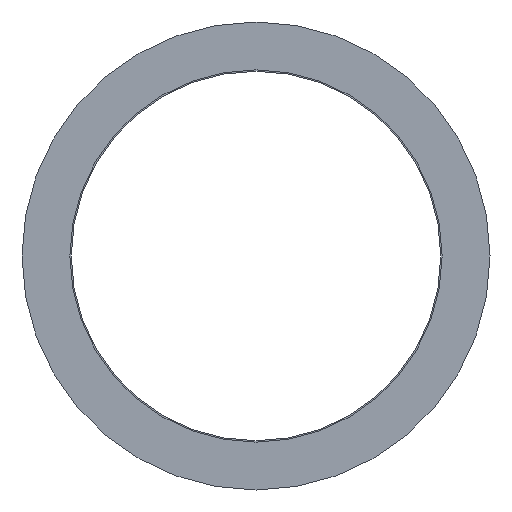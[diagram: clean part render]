
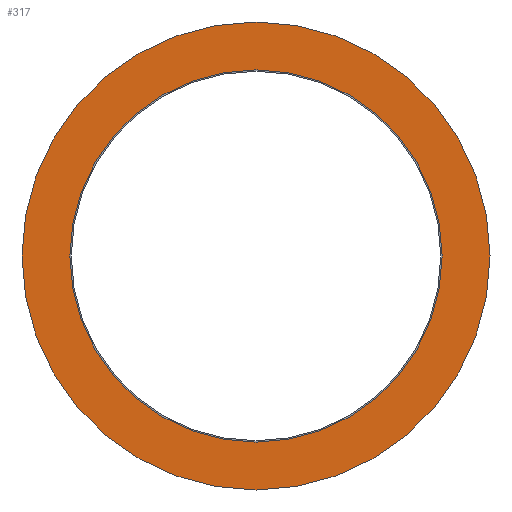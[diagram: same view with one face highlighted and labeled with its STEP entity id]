
A CAD part, left-side view. The second image highlights one B-rep face of the part: STEP entity #317.
In plain terms, the highlighted planar face has unit normal (-1, 0, 0).
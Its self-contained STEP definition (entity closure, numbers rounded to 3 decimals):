
#8 = CIRCLE ( 'NONE', #253, 9.5 ) ;
#10 = AXIS2_PLACEMENT_3D ( 'NONE', #292, #97, #210 ) ;
#28 = CIRCLE ( 'NONE', #10, 9.5 ) ;
#31 = CARTESIAN_POINT ( 'NONE',  ( -3.562, -0.028, -7.555 ) ) ;
#37 = DIRECTION ( 'NONE',  ( 1., 0., 0. ) ) ;
#49 = DIRECTION ( 'NONE',  ( -1., 0., 0. ) ) ;
#60 = ORIENTED_EDGE ( 'NONE', *, *, #147, .T. ) ;
#65 = CARTESIAN_POINT ( 'NONE',  ( -3.562, -0.028, 0. ) ) ;
#67 = FACE_BOUND ( 'NONE', #163, .T. ) ;
#78 = FACE_OUTER_BOUND ( 'NONE', #394, .T. ) ;
#88 = CARTESIAN_POINT ( 'NONE',  ( -3.562, -0.028, 0. ) ) ;
#96 = VERTEX_POINT ( 'NONE', #207 ) ;
#97 = DIRECTION ( 'NONE',  ( 1., 0., 0. ) ) ;
#101 = VERTEX_POINT ( 'NONE', #111 ) ;
#111 = CARTESIAN_POINT ( 'NONE',  ( -3.562, -0.028, 7.555 ) ) ;
#119 = CARTESIAN_POINT ( 'NONE',  ( -3.562, -0.028, 0. ) ) ;
#122 = PLANE ( 'NONE',  #235 ) ;
#125 = CARTESIAN_POINT ( 'NONE',  ( -3.562, -0.028, 9.5 ) ) ;
#126 = EDGE_CURVE ( 'NONE', #329, #101, #400, .T. ) ;
#136 = CARTESIAN_POINT ( 'NONE',  ( -3.562, -0.028, 0. ) ) ;
#147 = EDGE_CURVE ( 'NONE', #101, #329, #167, .T. ) ;
#163 = EDGE_LOOP ( 'NONE', ( #202, #60 ) ) ;
#167 = CIRCLE ( 'NONE', #378, 7.555 ) ;
#182 = ORIENTED_EDGE ( 'NONE', *, *, #334, .F. ) ;
#200 = VERTEX_POINT ( 'NONE', #125 ) ;
#202 = ORIENTED_EDGE ( 'NONE', *, *, #126, .T. ) ;
#203 = DIRECTION ( 'NONE',  ( 0., 0., -1. ) ) ;
#207 = CARTESIAN_POINT ( 'NONE',  ( -3.562, -0.028, -9.5 ) ) ;
#210 = DIRECTION ( 'NONE',  ( 0., 0., -1. ) ) ;
#213 = EDGE_CURVE ( 'NONE', #200, #96, #28, .T. ) ;
#215 = DIRECTION ( 'NONE',  ( 1., 0., 0. ) ) ;
#221 = DIRECTION ( 'NONE',  ( 0., 0., 1. ) ) ;
#235 = AXIS2_PLACEMENT_3D ( 'NONE', #65, #49, #221 ) ;
#253 = AXIS2_PLACEMENT_3D ( 'NONE', #136, #37, #350 ) ;
#282 = DIRECTION ( 'NONE',  ( 1., 0., 0. ) ) ;
#292 = CARTESIAN_POINT ( 'NONE',  ( -3.562, -0.028, 0. ) ) ;
#317 = ADVANCED_FACE ( 'NONE', ( #67, #78 ), #122, .T. ) ;
#323 = ORIENTED_EDGE ( 'NONE', *, *, #213, .F. ) ;
#329 = VERTEX_POINT ( 'NONE', #31 ) ;
#334 = EDGE_CURVE ( 'NONE', #96, #200, #8, .T. ) ;
#350 = DIRECTION ( 'NONE',  ( 0., 0., -1. ) ) ;
#363 = AXIS2_PLACEMENT_3D ( 'NONE', #119, #282, #403 ) ;
#378 = AXIS2_PLACEMENT_3D ( 'NONE', #88, #215, #203 ) ;
#394 = EDGE_LOOP ( 'NONE', ( #182, #323 ) ) ;
#400 = CIRCLE ( 'NONE', #363, 7.555 ) ;
#403 = DIRECTION ( 'NONE',  ( 0., 0., -1. ) ) ;
